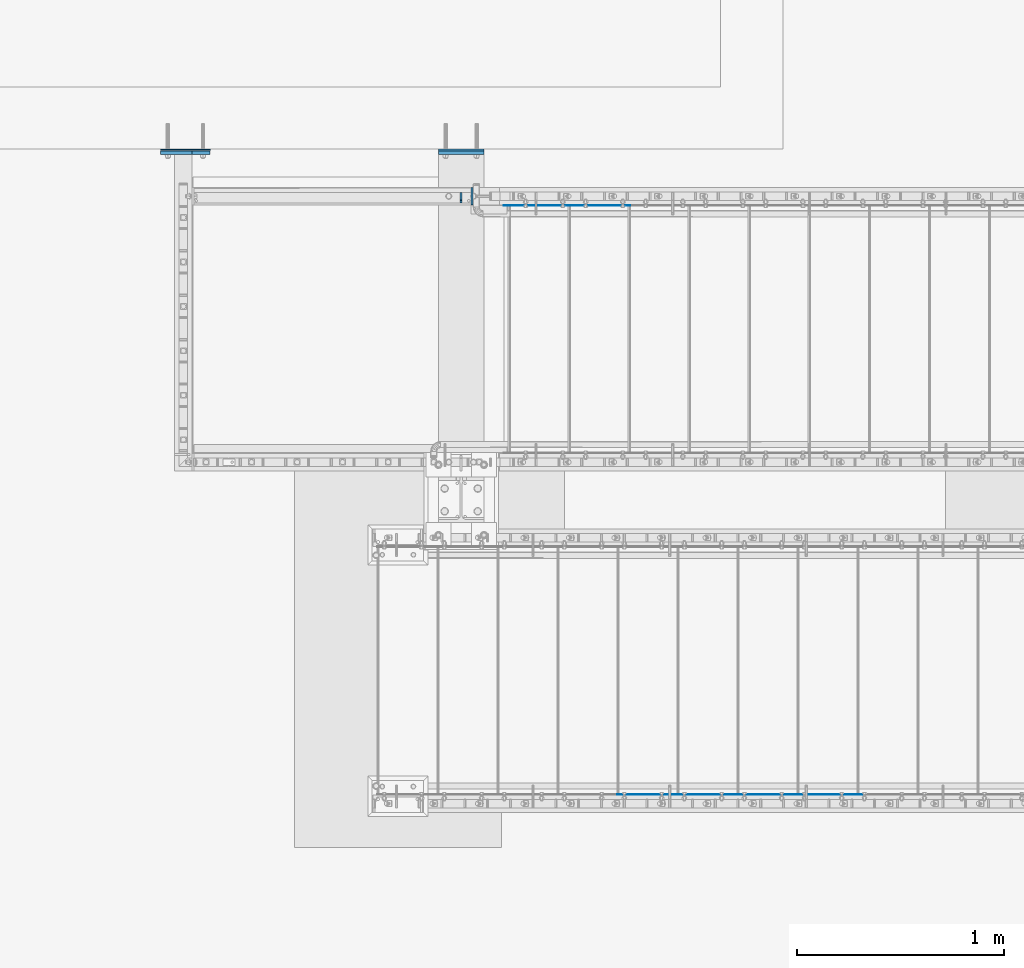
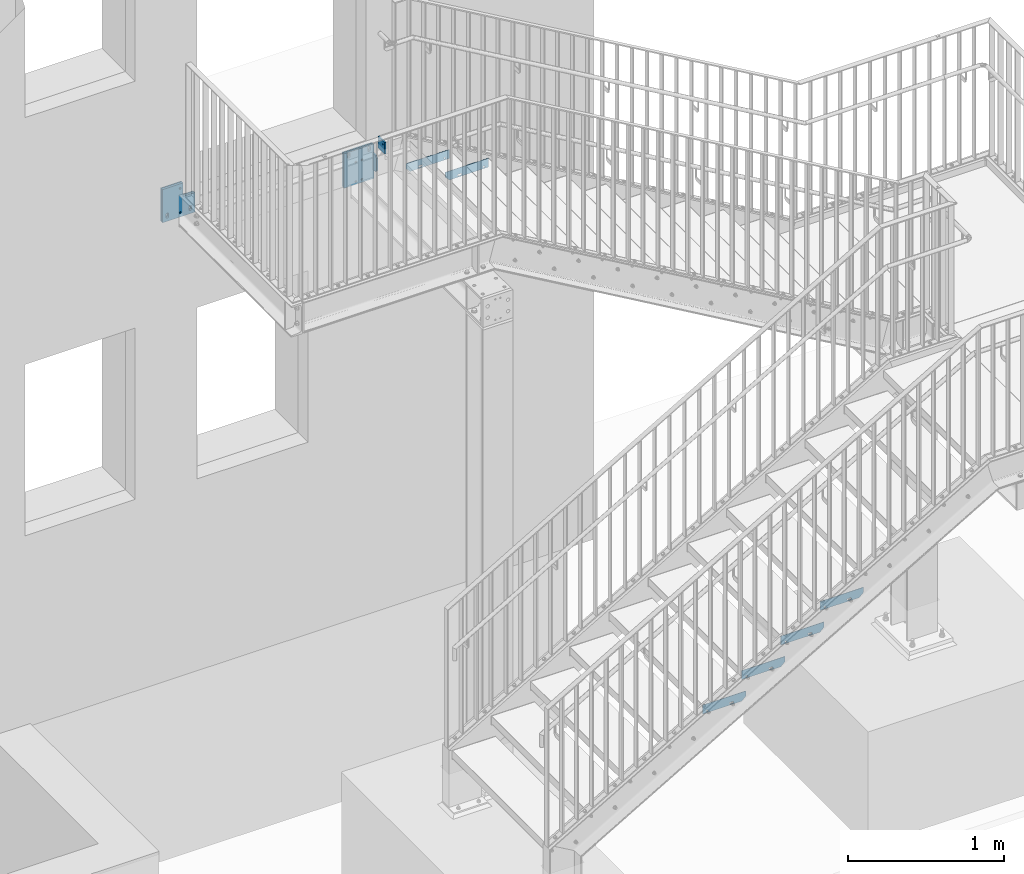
# One storey, part 21 of 145: 12 plates, 38 openings.
"""IFC2X3 building model written with IfcOpenShell, lengths in millimetres."""

from ifc_helpers import new_model, entity, si_unit, converted_unit, point, frame, frame_2d, origin, origin_with_axes, origin_2d_with_axis, place, context, project, spatial, polyline, circle_curve, line_curve, trimmed, segment, composite_curve, circle, outline, extrude, material, layer, layer_set, element, save


model = new_model("IFC2X3")

# Units and contexts
model_context = context("Model", 3, precision=1e-09, world=origin_with_axes())
ifc_project = project(units=[si_unit("LENGTHUNIT", "METRE", prefix="MILLI"), si_unit("AREAUNIT", "SQUARE_METRE"), si_unit("VOLUMEUNIT", "CUBIC_METRE"), converted_unit("PLANEANGLEUNIT", "DEGREE", entity("IfcPlaneAngleMeasure", 0.01745329), si_unit("PLANEANGLEUNIT", "RADIAN"), dimensions=[0, 0, 0, 0, 0, 0, 0])], contexts=[model_context])

# Site, building, storey
site_placement = place(None, origin_with_axes())
site = spatial("IfcSite", under=ifc_project, at=site_placement, Name="BZ1 Grund- und Mittelschule 85716 Unterschlei?heim", CompositionType="ELEMENT")
building_placement = place(site_placement, origin_with_axes())
building = spatial("IfcBuilding", under=site, at=building_placement, Name="Struktur 1", CompositionType="ELEMENT")
storey_placement = place(building_placement, origin_with_axes())
storey = spatial("IfcBuildingStorey", under=building, at=storey_placement, Name="Default Storey", CompositionType="ELEMENT", Elevation=0.0)

# Plate, openings
ifc_material_1 = material(Name="Thermostop")
ifc_layer_1 = layer(ifc_material_1, 10.0)
ifc_layer_set_1 = layer_set([ifc_layer_1], Name="Thermostop")
plate_1_placement = place(None, frame((17070.84472732, 0.0, 2985.0), z_axis=(0.0, -1.0, 0.0), x_axis=(1.0, 0.0, 0.0)))
plate_1 = element("IfcPlate", 1, at=plate_1_placement, inside=storey, material=ifc_layer_set_1, Name="-", ObjectType="-", context=model_context, shape_type="SweptSolid", body=[
    extrude(outline(polyline([(-110.0, -135.0), (110.0, -135.0), (110.0, 135.0), (-110.0, 135.0), (-110.0, -135.0)])), origin_with_axes(), (0.0, 0.0, 1.0), 10.0),
])
opening_1_placement = place(plate_1_placement, frame((0.0, 109.9990004, -0.5), z_axis=(0.0, 0.0, 1.0), x_axis=(1.0, 0.0, 0.0)))
element("IfcOpeningElement", 2, at=opening_1_placement, cuts=plate_1, ObjectType="Opening", context=model_context, shape_type="SweptSolid", body=[
    extrude(outline(composite_curve([segment(trimmed(line_curve((84.001, -11.0), (0.0, 1.0), 22.0), [point((84.001, -11.0))], [point((84.001, 11.0))], True, "CARTESIAN"), True, "CONTINUOUS"), segment(trimmed(circle_curve(frame_2d((75.0, 11.0), x_axis=(1.0, 0.0)), 9.001), [point((84.001, 11.0))], [point((65.999, 11.0))], True, "CARTESIAN"), True, "CONTINUOUS"), segment(trimmed(line_curve((65.999, 11.0), (0.0, -1.0), 22.0), [point((65.999, 11.0))], [point((65.999, -11.0))], True, "CARTESIAN"), True, "CONTINUOUS"), segment(trimmed(circle_curve(frame_2d((75.0, -11.0), x_axis=(1.0, 0.0)), 9.001), [point((65.999, -11.0))], [point((84.001, -11.0))], True, "CARTESIAN"), True, "CONTINUOUS")], self_intersect=False)), origin(), (0.0, 0.0, 1.0), 11.0),
])
opening_2_placement = place(plate_1_placement, frame((0.0, 109.9990004, -0.5), z_axis=(0.0, 0.0, 1.0), x_axis=(1.0, 0.0, 0.0)))
element("IfcOpeningElement", 3, at=opening_2_placement, cuts=plate_1, ObjectType="Opening", context=model_context, shape_type="SweptSolid", body=[
    extrude(outline(composite_curve([segment(trimmed(line_curve((-65.999, -11.0), (0.0, 1.0), 22.0), [point((-65.999, -11.0))], [point((-65.999, 11.0))], True, "CARTESIAN"), True, "CONTINUOUS"), segment(trimmed(circle_curve(frame_2d((-75.0, 11.0), x_axis=(1.0, 0.0)), 9.001), [point((-65.999, 11.0))], [point((-84.001, 11.0))], True, "CARTESIAN"), True, "CONTINUOUS"), segment(trimmed(line_curve((-84.001, 11.0), (0.0, -1.0), 22.0), [point((-84.001, 11.0))], [point((-84.001, -11.0))], True, "CARTESIAN"), True, "CONTINUOUS"), segment(trimmed(circle_curve(frame_2d((-75.0, -11.0), x_axis=(1.0, 0.0)), 9.001), [point((-84.001, -11.0))], [point((-65.999, -11.0))], True, "CARTESIAN"), True, "CONTINUOUS")], self_intersect=False)), origin(), (0.0, 0.0, 1.0), 11.0),
])

ifc_layer_2 = layer(ifc_material_1, 6.0)
ifc_layer_set_2 = layer_set([ifc_layer_2], Name="Thermostop")
plate_2_placement = place(None, frame((15738.34372732, 0.0, 3180.0000004), z_axis=(0.0, -1.0, 0.0), x_axis=(1.0, 0.0, 0.0)))
plate_2 = element("IfcPlate", 4, at=plate_2_placement, inside=storey, material=ifc_layer_set_2, Name="-", ObjectType="-", context=model_context, shape_type="SweptSolid", body=[
    extrude(outline(polyline([(-120.0, -130.0), (120.0, -130.0), (120.0, 130.0), (-120.0, 130.0), (-120.0, -130.0)])), origin_with_axes(), (0.0, 0.0, 1.0), 6.0),
])
opening_3_placement = place(plate_2_placement, frame((-10.0, -85.001, -0.5), z_axis=(0.0, 0.0, 1.0), x_axis=(1.0, 0.0, 0.0)))
element("IfcOpeningElement", 5, at=opening_3_placement, cuts=plate_2, ObjectType="Opening", context=model_context, shape_type="SweptSolid", body=[
    extrude(outline(composite_curve([segment(trimmed(line_curve((104.001, -11.0), (0.0, 1.0), 22.0), [point((104.001, -11.0))], [point((104.001, 11.0))], True, "CARTESIAN"), True, "CONTINUOUS"), segment(trimmed(circle_curve(frame_2d((95.0, 11.0), x_axis=(1.0, 0.0)), 9.001), [point((104.001, 11.0))], [point((85.999, 11.0))], True, "CARTESIAN"), True, "CONTINUOUS"), segment(trimmed(line_curve((85.999, 11.0), (0.0, -1.0), 22.0), [point((85.999, 11.0))], [point((85.999, -11.0))], True, "CARTESIAN"), True, "CONTINUOUS"), segment(trimmed(circle_curve(frame_2d((95.0, -11.0), x_axis=(1.0, 0.0)), 9.001), [point((85.999, -11.0))], [point((104.001, -11.0))], True, "CARTESIAN"), True, "CONTINUOUS")], self_intersect=False)), origin(), (0.0, 0.0, 1.0), 7.0),
])
opening_4_placement = place(plate_2_placement, frame((-10.0, -85.001, -0.5), z_axis=(0.0, 0.0, 1.0), x_axis=(1.0, 0.0, 0.0)))
element("IfcOpeningElement", 6, at=opening_4_placement, cuts=plate_2, ObjectType="Opening", context=model_context, shape_type="SweptSolid", body=[
    extrude(outline(composite_curve([segment(trimmed(line_curve((-65.999, -11.0), (0.0, 1.0), 22.0), [point((-65.999, -11.0))], [point((-65.999, 11.0))], True, "CARTESIAN"), True, "CONTINUOUS"), segment(trimmed(circle_curve(frame_2d((-75.0, 11.0), x_axis=(1.0, 0.0)), 9.001), [point((-65.999, 11.0))], [point((-84.001, 11.0))], True, "CARTESIAN"), True, "CONTINUOUS"), segment(trimmed(line_curve((-84.001, 11.0), (0.0, -1.0), 22.0), [point((-84.001, 11.0))], [point((-84.001, -11.0))], True, "CARTESIAN"), True, "CONTINUOUS"), segment(trimmed(circle_curve(frame_2d((-75.0, -11.0), x_axis=(1.0, 0.0)), 9.001), [point((-84.001, -11.0))], [point((-65.999, -11.0))], True, "CARTESIAN"), True, "CONTINUOUS")], self_intersect=False)), origin(), (0.0, 0.0, 1.0), 7.0),
])
opening_5_placement = place(plate_2_placement, frame((0.0, 0.0, -0.1), z_axis=(0.0, 0.0, 1.0), x_axis=(1.0, 0.0, 0.0)))
element("IfcOpeningElement", 7, at=opening_5_placement, cuts=plate_2, ObjectType="Opening", context=model_context, shape_type="SweptSolid", body=[
    extrude(outline(polyline([(32.499, 23.999), (154.4591057, 23.999), (154.4591057, 165.61100087), (32.499, 165.61100087), (32.499, 23.999)])), origin(), (0.0, 0.0, 1.0), 6.2),
])

ifc_material_2 = material(Name="S235JR")
ifc_layer_3 = layer(ifc_material_2, 15.0)
ifc_layer_set_3 = layer_set([ifc_layer_3], Name="S235JR")
plate_3_placement = place(None, frame((15738.34372732, -10.0, 3180.0000004), z_axis=(0.0, -1.0, 0.0), x_axis=(1.0, 0.0, 0.0)))
plate_3 = element("IfcPlate", 8, at=plate_3_placement, inside=storey, material=ifc_layer_set_3, Name="-", ObjectType="-", context=model_context, shape_type="SweptSolid", body=[
    extrude(outline(polyline([(-120.0, -130.0), (120.0, -130.0), (120.0, 130.0), (-120.0, 130.0), (-120.0, -130.0)])), origin_with_axes(), (0.0, 0.0, 1.0), 15.0),
])
opening_6_placement = place(plate_3_placement, frame((10.0, 94.0, -0.5), z_axis=(0.0, 0.0, 1.0), x_axis=(0.0, 1.0, 0.0)))
element("IfcOpeningElement", 9, at=opening_6_placement, cuts=plate_3, ObjectType="Opening", context=model_context, shape_type="SweptSolid", body=[
    extrude(circle(Radius=7.001, at=origin_2d_with_axis()), origin(), (0.0, 0.0, 1.0), 16.0),
])
opening_7_placement = place(plate_3_placement, frame((10.0, -94.0, -0.5), z_axis=(0.0, 0.0, 1.0), x_axis=(0.0, 1.0, 0.0)))
element("IfcOpeningElement", 10, at=opening_7_placement, cuts=plate_3, ObjectType="Opening", context=model_context, shape_type="SweptSolid", body=[
    extrude(circle(Radius=7.001, at=origin_2d_with_axis()), origin(), (0.0, 0.0, 1.0), 16.0),
])
opening_8_placement = place(plate_3_placement, frame((0.0, 0.0, -0.1), z_axis=(0.0, 0.0, 1.0), x_axis=(1.0, 0.0, 0.0)))
element("IfcOpeningElement", 11, at=opening_8_placement, cuts=plate_3, ObjectType="Opening", context=model_context, shape_type="SweptSolid", body=[
    extrude(outline(polyline([(32.499, 23.998), (154.4591057, 23.998), (154.4591057, 165.61100087), (32.499, 165.61100087), (32.499, 23.998)])), origin(), (0.0, 0.0, 1.0), 15.2),
])
opening_9_placement = place(plate_3_placement, frame((0.0, -85.001, -0.5), z_axis=(0.0, 0.0, 1.0), x_axis=(1.0, 0.0, 0.0)))
element("IfcOpeningElement", 12, at=opening_9_placement, cuts=plate_3, ObjectType="Opening", context=model_context, shape_type="SweptSolid", body=[
    extrude(outline(composite_curve([segment(trimmed(line_curve((94.001, -11.0), (0.0, 1.0), 22.0), [point((94.001, -11.0))], [point((94.001, 11.0))], True, "CARTESIAN"), True, "CONTINUOUS"), segment(trimmed(circle_curve(frame_2d((85.0, 11.0), x_axis=(1.0, 0.0)), 9.001), [point((94.001, 11.0))], [point((75.999, 11.0))], True, "CARTESIAN"), True, "CONTINUOUS"), segment(trimmed(line_curve((75.999, 11.0), (0.0, -1.0), 22.0), [point((75.999, 11.0))], [point((75.999, -11.0))], True, "CARTESIAN"), True, "CONTINUOUS"), segment(trimmed(circle_curve(frame_2d((85.0, -11.0), x_axis=(1.0, 0.0)), 9.001), [point((75.999, -11.0))], [point((94.001, -11.0))], True, "CARTESIAN"), True, "CONTINUOUS")], self_intersect=False)), origin(), (0.0, 0.0, 1.0), 16.0),
])
opening_10_placement = place(plate_3_placement, frame((0.0, -85.001, -0.5), z_axis=(0.0, 0.0, 1.0), x_axis=(1.0, 0.0, 0.0)))
element("IfcOpeningElement", 13, at=opening_10_placement, cuts=plate_3, ObjectType="Opening", context=model_context, shape_type="SweptSolid", body=[
    extrude(outline(composite_curve([segment(trimmed(line_curve((-75.999, -11.0), (0.0, 1.0), 22.0), [point((-75.999, -11.0))], [point((-75.999, 11.0))], True, "CARTESIAN"), True, "CONTINUOUS"), segment(trimmed(circle_curve(frame_2d((-85.0, 11.0), x_axis=(1.0, 0.0)), 9.001), [point((-75.999, 11.0))], [point((-94.001, 11.0))], True, "CARTESIAN"), True, "CONTINUOUS"), segment(trimmed(line_curve((-94.001, 11.0), (0.0, -1.0), 22.0), [point((-94.001, 11.0))], [point((-94.001, -11.0))], True, "CARTESIAN"), True, "CONTINUOUS"), segment(trimmed(circle_curve(frame_2d((-85.0, -11.0), x_axis=(1.0, 0.0)), 9.001), [point((-94.001, -11.0))], [point((-75.999, -11.0))], True, "CARTESIAN"), True, "CONTINUOUS")], self_intersect=False)), origin(), (0.0, 0.0, 1.0), 16.0),
])

ifc_layer_4 = layer(ifc_material_2, 10.0)
ifc_layer_set_4 = layer_set([ifc_layer_4], Name="S235JR")
plate_4_placement = place(None, frame((17075.84472732, -185.502, 3071.144734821), z_axis=(-1.0, 0.0, 0.0), x_axis=(0.0, -0.996815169, 0.079746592)))
plate_4 = element("IfcPlate", 14, at=plate_4_placement, inside=storey, material=ifc_layer_set_4, Name="Stiffener#1", ObjectType="Stiffener#1", context=model_context, shape_type="SweptSolid", body=[
    extrude(outline(polyline([(25.079875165, 0.0), (75.239625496, 0.0), (91.644322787, 205.05517107), (42.122556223, 213.029830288), (25.079875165, 0.0)])), origin_with_axes(), (0.0, 0.0, 1.0), 10.0),
])
opening_11_placement = place(plate_4_placement, frame((0.0, 0.0, -0.01), z_axis=(0.0, 0.0, 1.0), x_axis=(1.0, 0.0, 0.0)))
element("IfcOpeningElement", 15, at=opening_11_placement, cuts=plate_4, ObjectType="Opening", context=model_context, shape_type="SweptSolid", body=[
    extrude(outline(composite_curve([segment(trimmed(line_curve((75.239625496, 0.0), (0.079746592, 0.996815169), 15.0), [point((75.239625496, 0.0))], [point((76.435824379, 14.952227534))], True, "CARTESIAN"), True, "CONTINUOUS"), segment(trimmed(circle_curve(frame_2d((75.239625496, 0.0), x_axis=(1.0, 0.0)), 15.0), [point((76.435824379, 14.952227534))], [point((60.239625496, 0.0))], True, "CARTESIAN"), True, "CONTINUOUS"), segment(trimmed(line_curve((60.239625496, 0.0), (1.0, 0.0), 15.0), [point((60.239625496, 0.0))], [point((75.239625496, 0.0))], True, "CARTESIAN"), True, "CONTINUOUS")], self_intersect=False)), origin(), (0.0, 0.0, 1.0), 10.02),
])
opening_12_placement = place(plate_4_placement, frame((0.0, 0.0, -0.1), z_axis=(0.0, 0.0, 1.0), x_axis=(0.996815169, -0.079746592, 0.0)))
element("IfcOpeningElement", 16, at=opening_12_placement, cuts=plate_4, ObjectType="Opening", context=model_context, shape_type="SweptSolid", body=[
    extrude(outline(polyline([(-31.888544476, 132.003265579), (260.922425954, 132.003265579), (260.922425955, 274.306542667), (-31.888544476, 274.306542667), (-31.888544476, 132.003265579)])), origin(), (0.0, 0.0, 1.0), 10.2),
])
opening_13_placement = place(plate_4_placement, frame((0.0, 0.0, -0.1), z_axis=(0.0, 0.0, 1.0), x_axis=(0.996815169, -0.079746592, 0.0)))
element("IfcOpeningElement", 17, at=opening_13_placement, cuts=plate_4, ObjectType="Opening", context=model_context, shape_type="SweptSolid", body=[
    extrude(outline(circle_curve(frame_2d((75.0, 132.003265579), x_axis=(1.0, 0.0)), 15.001)), origin(), (0.0, 0.0, 1.0), 10.2),
])

ifc_layer_5 = layer(ifc_material_2, 3.0)
ifc_layer_set_5 = layer_set([ifc_layer_5], Name="S235JR")
plate_5_placement = place(None, frame((17984.545399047, -3117.002, 348.181818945), z_axis=(0.0, -1.0, 0.0), x_axis=(0.0, 0.0, -1.0)))
plate_5 = element("IfcPlate", 18, at=plate_5_placement, inside=storey, material=ifc_layer_set_5, Name="-", ObjectType="-", context=model_context, shape_type="SweptSolid", body=[
    extrude(outline(polyline([(-35.0, -160.0), (35.0, -160.0), (35.0, 160.0), (-35.0, 160.0), (-35.0, -160.0)])), origin_with_axes(), (0.0, 0.0, 1.0), 3.0),
])
opening_14_placement = place(plate_5_placement, frame((0.0, 7.5, -0.001), z_axis=(0.0, 0.0, 1.0), x_axis=(1.0, 0.0, 0.0)))
element("IfcOpeningElement", 19, at=opening_14_placement, cuts=plate_5, ObjectType="Opening", context=model_context, shape_type="SweptSolid", body=[
    extrude(outline(polyline([(5.0, 152.5), (35.0, 122.5), (35.0, 152.5), (5.0, 152.5)])), origin(), (0.0, 0.0, 1.0), 3.002),
])
opening_15_placement = place(plate_5_placement, frame((20.0, 55.0, 3.5), z_axis=(0.0, 0.0, -1.0), x_axis=(-1.0, 0.0, 0.0)))
element("IfcOpeningElement", 20, at=opening_15_placement, cuts=plate_5, ObjectType="Opening", context=model_context, shape_type="SweptSolid", body=[
    extrude(outline(composite_curve([segment(trimmed(line_curve((6.501, -9.5), (0.0, 1.0), 19.0), [point((6.501, -9.5))], [point((6.501, 9.5))], True, "CARTESIAN"), True, "CONTINUOUS"), segment(trimmed(circle_curve(frame_2d((0.0, 9.5), x_axis=(1.0, 0.0)), 6.501), [point((6.501, 9.5))], [point((-6.501, 9.5))], True, "CARTESIAN"), True, "CONTINUOUS"), segment(trimmed(line_curve((-6.501, 9.5), (0.0, -1.0), 19.0), [point((-6.501, 9.5))], [point((-6.501, -9.5))], True, "CARTESIAN"), True, "CONTINUOUS"), segment(trimmed(circle_curve(frame_2d((0.0, -9.5), x_axis=(1.0, 0.0)), 6.501), [point((-6.501, -9.5))], [point((6.501, -9.5))], True, "CARTESIAN"), True, "CONTINUOUS")], self_intersect=False)), origin(), (0.0, 0.0, 1.0), 4.0),
])
opening_16_placement = place(plate_5_placement, frame((20.0, -125.0, 3.5), z_axis=(0.0, 0.0, -1.0), x_axis=(-1.0, 0.0, 0.0)))
element("IfcOpeningElement", 21, at=opening_16_placement, cuts=plate_5, ObjectType="Opening", context=model_context, shape_type="SweptSolid", body=[
    extrude(circle(Radius=6.501, at=origin_2d_with_axis()), origin(), (0.0, 0.0, 1.0), 4.0),
])

plate_6_placement = place(None, frame((18274.545399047, -3117.002, 516.818182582), z_axis=(0.0, -1.0, 0.0), x_axis=(0.0, 0.0, -1.0)))
plate_6 = element("IfcPlate", 22, at=plate_6_placement, inside=storey, material=ifc_layer_set_5, Name="-", ObjectType="-", context=model_context, shape_type="SweptSolid", body=[
    extrude(outline(polyline([(-35.0, -160.0), (35.0, -160.0), (35.0, 160.0), (-35.0, 160.0), (-35.0, -160.0)])), origin_with_axes(), (0.0, 0.0, 1.0), 3.0),
])
opening_17_placement = place(plate_6_placement, frame((0.0, 7.5, -0.001), z_axis=(0.0, 0.0, 1.0), x_axis=(1.0, 0.0, 0.0)))
element("IfcOpeningElement", 23, at=opening_17_placement, cuts=plate_6, ObjectType="Opening", context=model_context, shape_type="SweptSolid", body=[
    extrude(outline(polyline([(5.0, 152.5), (35.0, 122.5), (35.0, 152.5), (5.0, 152.5)])), origin(), (0.0, 0.0, 1.0), 3.002),
])
opening_18_placement = place(plate_6_placement, frame((20.0, 55.0, 3.5), z_axis=(0.0, 0.0, -1.0), x_axis=(-1.0, 0.0, 0.0)))
element("IfcOpeningElement", 24, at=opening_18_placement, cuts=plate_6, ObjectType="Opening", context=model_context, shape_type="SweptSolid", body=[
    extrude(outline(composite_curve([segment(trimmed(line_curve((6.501, -9.5), (0.0, 1.0), 19.0), [point((6.501, -9.5))], [point((6.501, 9.5))], True, "CARTESIAN"), True, "CONTINUOUS"), segment(trimmed(circle_curve(frame_2d((0.0, 9.5), x_axis=(1.0, 0.0)), 6.501), [point((6.501, 9.5))], [point((-6.501, 9.5))], True, "CARTESIAN"), True, "CONTINUOUS"), segment(trimmed(line_curve((-6.501, 9.5), (0.0, -1.0), 19.0), [point((-6.501, 9.5))], [point((-6.501, -9.5))], True, "CARTESIAN"), True, "CONTINUOUS"), segment(trimmed(circle_curve(frame_2d((0.0, -9.5), x_axis=(1.0, 0.0)), 6.501), [point((-6.501, -9.5))], [point((6.501, -9.5))], True, "CARTESIAN"), True, "CONTINUOUS")], self_intersect=False)), origin(), (0.0, 0.0, 1.0), 4.0),
])
opening_19_placement = place(plate_6_placement, frame((20.0, -125.0, 3.5), z_axis=(0.0, 0.0, -1.0), x_axis=(-1.0, 0.0, 0.0)))
element("IfcOpeningElement", 25, at=opening_19_placement, cuts=plate_6, ObjectType="Opening", context=model_context, shape_type="SweptSolid", body=[
    extrude(circle(Radius=6.501, at=origin_2d_with_axis()), origin(), (0.0, 0.0, 1.0), 4.0),
])

plate_7_placement = place(None, frame((18564.545399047, -3117.002, 685.454546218), z_axis=(0.0, -1.0, 0.0), x_axis=(0.0, 0.0, -1.0)))
plate_7 = element("IfcPlate", 26, at=plate_7_placement, inside=storey, material=ifc_layer_set_5, Name="-", ObjectType="-", context=model_context, shape_type="SweptSolid", body=[
    extrude(outline(polyline([(-35.0, -160.0), (35.0, -160.0), (35.0, 160.0), (-35.0, 160.0), (-35.0, -160.0)])), origin_with_axes(), (0.0, 0.0, 1.0), 3.0),
])
opening_20_placement = place(plate_7_placement, frame((0.0, 7.5, -0.001), z_axis=(0.0, 0.0, 1.0), x_axis=(1.0, 0.0, 0.0)))
element("IfcOpeningElement", 27, at=opening_20_placement, cuts=plate_7, ObjectType="Opening", context=model_context, shape_type="SweptSolid", body=[
    extrude(outline(polyline([(5.0, 152.5), (35.0, 122.5), (35.0, 152.5), (5.0, 152.5)])), origin(), (0.0, 0.0, 1.0), 3.002),
])
opening_21_placement = place(plate_7_placement, frame((20.0, 55.0, 3.5), z_axis=(0.0, 0.0, -1.0), x_axis=(-1.0, 0.0, 0.0)))
element("IfcOpeningElement", 28, at=opening_21_placement, cuts=plate_7, ObjectType="Opening", context=model_context, shape_type="SweptSolid", body=[
    extrude(outline(composite_curve([segment(trimmed(line_curve((6.501, -9.5), (0.0, 1.0), 19.0), [point((6.501, -9.5))], [point((6.501, 9.5))], True, "CARTESIAN"), True, "CONTINUOUS"), segment(trimmed(circle_curve(frame_2d((0.0, 9.5), x_axis=(1.0, 0.0)), 6.501), [point((6.501, 9.5))], [point((-6.501, 9.5))], True, "CARTESIAN"), True, "CONTINUOUS"), segment(trimmed(line_curve((-6.501, 9.5), (0.0, -1.0), 19.0), [point((-6.501, 9.5))], [point((-6.501, -9.5))], True, "CARTESIAN"), True, "CONTINUOUS"), segment(trimmed(circle_curve(frame_2d((0.0, -9.5), x_axis=(1.0, 0.0)), 6.501), [point((-6.501, -9.5))], [point((6.501, -9.5))], True, "CARTESIAN"), True, "CONTINUOUS")], self_intersect=False)), origin(), (0.0, 0.0, 1.0), 4.0),
])
opening_22_placement = place(plate_7_placement, frame((20.0, -125.0, 3.5), z_axis=(0.0, 0.0, -1.0), x_axis=(-1.0, 0.0, 0.0)))
element("IfcOpeningElement", 29, at=opening_22_placement, cuts=plate_7, ObjectType="Opening", context=model_context, shape_type="SweptSolid", body=[
    extrude(circle(Radius=6.501, at=origin_2d_with_axis()), origin(), (0.0, 0.0, 1.0), 4.0),
])

plate_8_placement = place(None, frame((18854.545399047, -3117.002, 854.090909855), z_axis=(0.0, -1.0, 0.0), x_axis=(0.0, 0.0, -1.0)))
plate_8 = element("IfcPlate", 30, at=plate_8_placement, inside=storey, material=ifc_layer_set_5, Name="-", ObjectType="-", context=model_context, shape_type="SweptSolid", body=[
    extrude(outline(polyline([(-35.0, -160.0), (35.0, -160.0), (35.0, 160.0), (-35.0, 160.0), (-35.0, -160.0)])), origin_with_axes(), (0.0, 0.0, 1.0), 3.0),
])
opening_23_placement = place(plate_8_placement, frame((0.0, 7.5, -0.001), z_axis=(0.0, 0.0, 1.0), x_axis=(1.0, 0.0, 0.0)))
element("IfcOpeningElement", 31, at=opening_23_placement, cuts=plate_8, ObjectType="Opening", context=model_context, shape_type="SweptSolid", body=[
    extrude(outline(polyline([(5.0, 152.5), (35.0, 122.5), (35.0, 152.5), (5.0, 152.5)])), origin(), (0.0, 0.0, 1.0), 3.002),
])
opening_24_placement = place(plate_8_placement, frame((20.0, 55.0, 3.5), z_axis=(0.0, 0.0, -1.0), x_axis=(-1.0, 0.0, 0.0)))
element("IfcOpeningElement", 32, at=opening_24_placement, cuts=plate_8, ObjectType="Opening", context=model_context, shape_type="SweptSolid", body=[
    extrude(outline(composite_curve([segment(trimmed(line_curve((6.501, -9.5), (0.0, 1.0), 19.0), [point((6.501, -9.5))], [point((6.501, 9.5))], True, "CARTESIAN"), True, "CONTINUOUS"), segment(trimmed(circle_curve(frame_2d((0.0, 9.5), x_axis=(1.0, 0.0)), 6.501), [point((6.501, 9.5))], [point((-6.501, 9.5))], True, "CARTESIAN"), True, "CONTINUOUS"), segment(trimmed(line_curve((-6.501, 9.5), (0.0, -1.0), 19.0), [point((-6.501, 9.5))], [point((-6.501, -9.5))], True, "CARTESIAN"), True, "CONTINUOUS"), segment(trimmed(circle_curve(frame_2d((0.0, -9.5), x_axis=(1.0, 0.0)), 6.501), [point((-6.501, -9.5))], [point((6.501, -9.5))], True, "CARTESIAN"), True, "CONTINUOUS")], self_intersect=False)), origin(), (0.0, 0.0, 1.0), 4.0),
])
opening_25_placement = place(plate_8_placement, frame((20.0, -125.0, 3.5), z_axis=(0.0, 0.0, -1.0), x_axis=(-1.0, 0.0, 0.0)))
element("IfcOpeningElement", 33, at=opening_25_placement, cuts=plate_8, ObjectType="Opening", context=model_context, shape_type="SweptSolid", body=[
    extrude(circle(Radius=6.501, at=origin_2d_with_axis()), origin(), (0.0, 0.0, 1.0), 4.0),
])

plate_9_placement = place(None, frame((17727.1419848, -273.002, 2877.727273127), z_axis=(0.0, 1.0, 0.0), x_axis=(0.0, 0.0, -1.0)))
plate_9 = element("IfcPlate", 34, at=plate_9_placement, inside=storey, material=ifc_layer_set_5, Name="-", ObjectType="-", context=model_context, shape_type="SweptSolid", body=[
    extrude(outline(polyline([(-35.0, -160.0), (35.0, -160.0), (35.0, 160.0), (-35.0, 160.0), (-35.0, -160.0)])), origin_with_axes(), (0.0, 0.0, 1.0), 3.0),
])
opening_26_placement = place(plate_9_placement, frame((0.0, 7.5, -0.001), z_axis=(0.0, 0.0, 1.0), x_axis=(1.0, 0.0, 0.0)))
element("IfcOpeningElement", 35, at=opening_26_placement, cuts=plate_9, ObjectType="Opening", context=model_context, shape_type="SweptSolid", body=[
    extrude(outline(polyline([(5.0, 152.5), (35.0, 122.5), (35.0, 152.5), (5.0, 152.5)])), origin(), (0.0, 0.0, 1.0), 3.002),
])
opening_27_placement = place(plate_9_placement, frame((20.0, 55.0, 3.5), z_axis=(0.0, 0.0, -1.0), x_axis=(-1.0, 0.0, 0.0)))
element("IfcOpeningElement", 36, at=opening_27_placement, cuts=plate_9, ObjectType="Opening", context=model_context, shape_type="SweptSolid", body=[
    extrude(outline(composite_curve([segment(trimmed(line_curve((6.501, -9.5), (0.0, 1.0), 19.0), [point((6.501, -9.5))], [point((6.501, 9.5))], True, "CARTESIAN"), True, "CONTINUOUS"), segment(trimmed(circle_curve(frame_2d((0.0, 9.5), x_axis=(1.0, 0.0)), 6.501), [point((6.501, 9.5))], [point((-6.501, 9.5))], True, "CARTESIAN"), True, "CONTINUOUS"), segment(trimmed(line_curve((-6.501, 9.5), (0.0, -1.0), 19.0), [point((-6.501, 9.5))], [point((-6.501, -9.5))], True, "CARTESIAN"), True, "CONTINUOUS"), segment(trimmed(circle_curve(frame_2d((0.0, -9.5), x_axis=(1.0, 0.0)), 6.501), [point((-6.501, -9.5))], [point((6.501, -9.5))], True, "CARTESIAN"), True, "CONTINUOUS")], self_intersect=False)), origin(), (0.0, 0.0, 1.0), 4.0),
])
opening_28_placement = place(plate_9_placement, frame((20.0, -125.0, 3.5), z_axis=(0.0, 0.0, -1.0), x_axis=(-1.0, 0.0, 0.0)))
element("IfcOpeningElement", 37, at=opening_28_placement, cuts=plate_9, ObjectType="Opening", context=model_context, shape_type="SweptSolid", body=[
    extrude(circle(Radius=6.501, at=origin_2d_with_axis()), origin(), (0.0, 0.0, 1.0), 4.0),
])

plate_10_placement = place(None, frame((17437.1419848, -273.002, 3046.363636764), z_axis=(0.0, 1.0, 0.0), x_axis=(0.0, 0.0, -1.0)))
plate_10 = element("IfcPlate", 38, at=plate_10_placement, inside=storey, material=ifc_layer_set_5, Name="-", ObjectType="-", context=model_context, shape_type="SweptSolid", body=[
    extrude(outline(polyline([(-35.0, -160.0), (35.0, -160.0), (35.0, 160.0), (-35.0, 160.0), (-35.0, -160.0)])), origin_with_axes(), (0.0, 0.0, 1.0), 3.0),
])
opening_29_placement = place(plate_10_placement, frame((0.0, 7.5, -0.001), z_axis=(0.0, 0.0, 1.0), x_axis=(1.0, 0.0, 0.0)))
element("IfcOpeningElement", 39, at=opening_29_placement, cuts=plate_10, ObjectType="Opening", context=model_context, shape_type="SweptSolid", body=[
    extrude(outline(polyline([(5.0, 152.5), (35.0, 122.5), (35.0, 152.5), (5.0, 152.5)])), origin(), (0.0, 0.0, 1.0), 3.002),
])
opening_30_placement = place(plate_10_placement, frame((20.0, 55.0, 3.5), z_axis=(0.0, 0.0, -1.0), x_axis=(-1.0, 0.0, 0.0)))
element("IfcOpeningElement", 40, at=opening_30_placement, cuts=plate_10, ObjectType="Opening", context=model_context, shape_type="SweptSolid", body=[
    extrude(outline(composite_curve([segment(trimmed(line_curve((6.501, -9.5), (0.0, 1.0), 19.0), [point((6.501, -9.5))], [point((6.501, 9.5))], True, "CARTESIAN"), True, "CONTINUOUS"), segment(trimmed(circle_curve(frame_2d((0.0, 9.5), x_axis=(1.0, 0.0)), 6.501), [point((6.501, 9.5))], [point((-6.501, 9.5))], True, "CARTESIAN"), True, "CONTINUOUS"), segment(trimmed(line_curve((-6.501, 9.5), (0.0, -1.0), 19.0), [point((-6.501, 9.5))], [point((-6.501, -9.5))], True, "CARTESIAN"), True, "CONTINUOUS"), segment(trimmed(circle_curve(frame_2d((0.0, -9.5), x_axis=(1.0, 0.0)), 6.501), [point((-6.501, -9.5))], [point((6.501, -9.5))], True, "CARTESIAN"), True, "CONTINUOUS")], self_intersect=False)), origin(), (0.0, 0.0, 1.0), 4.0),
])
opening_31_placement = place(plate_10_placement, frame((20.0, -125.0, 3.5), z_axis=(0.0, 0.0, -1.0), x_axis=(-1.0, 0.0, 0.0)))
element("IfcOpeningElement", 41, at=opening_31_placement, cuts=plate_10, ObjectType="Opening", context=model_context, shape_type="SweptSolid", body=[
    extrude(circle(Radius=6.501, at=origin_2d_with_axis()), origin(), (0.0, 0.0, 1.0), 4.0),
])

# Plate, opening
plate_11_placement = place(None, frame((17118.84572732, -227.502, 3254.9995004), z_axis=(1.0, 0.0, 0.0), x_axis=(0.0, 1.0, 0.0)))
plate_11 = element("IfcPlate", 42, at=plate_11_placement, inside=storey, material=ifc_layer_set_4, Name="-", ObjectType="-", context=model_context, shape_type="SweptSolid", body=[
    extrude(outline(polyline([(-42.5, -45.0005), (42.5, -45.0005), (42.5, 45.0005), (-42.5, 45.0005), (-42.5, -45.0005)])), origin_with_axes(), (0.0, 0.0, 1.0), 10.0),
])
opening_32_placement = place(plate_11_placement, frame((-20.0, 19.0005, 10.5), z_axis=(0.0, 0.0, -1.0), x_axis=(0.0, 1.0, 0.0)))
element("IfcOpeningElement", 43, at=opening_32_placement, cuts=plate_11, ObjectType="Opening", context=model_context, shape_type="SweptSolid", body=[
    extrude(circle(Radius=6.001, at=origin_2d_with_axis()), origin(), (0.0, 0.0, 1.0), 11.0),
])

# Plate, openings
plate_12_placement = place(None, frame((17070.84472732, -10.0, 2985.0), z_axis=(0.0, -1.0, 0.0), x_axis=(1.0, 0.0, 0.0)))
plate_12 = element("IfcPlate", 44, at=plate_12_placement, inside=storey, material=ifc_layer_set_3, Name="-", ObjectType="-", context=model_context, shape_type="SweptSolid", body=[
    extrude(outline(polyline([(-110.0, -135.0), (110.0, -135.0), (110.0, 135.0), (-110.0, 135.0), (-110.0, -135.0)])), origin_with_axes(), (0.0, 0.0, 1.0), 15.0),
])
opening_33_placement = place(plate_12_placement, frame((22.75, 41.0, -0.5), z_axis=(0.0, 0.0, 1.0), x_axis=(0.0, -1.0, 0.0)))
element("IfcOpeningElement", 45, at=opening_33_placement, cuts=plate_12, ObjectType="Opening", context=model_context, shape_type="SweptSolid", body=[
    extrude(circle(Radius=7.001, at=origin_2d_with_axis()), origin(), (0.0, 0.0, 1.0), 16.0),
])
opening_34_placement = place(plate_12_placement, frame((22.75, -111.0, -0.5), z_axis=(0.0, 0.0, 1.0), x_axis=(0.0, -1.0, 0.0)))
element("IfcOpeningElement", 46, at=opening_34_placement, cuts=plate_12, ObjectType="Opening", context=model_context, shape_type="SweptSolid", body=[
    extrude(circle(Radius=7.001, at=origin_2d_with_axis()), origin(), (0.0, 0.0, 1.0), 16.0),
])
opening_35_placement = place(plate_12_placement, frame((-22.75, -111.0, -0.5), z_axis=(0.0, 0.0, 1.0), x_axis=(0.0, -1.0, 0.0)))
element("IfcOpeningElement", 47, at=opening_35_placement, cuts=plate_12, ObjectType="Opening", context=model_context, shape_type="SweptSolid", body=[
    extrude(circle(Radius=7.001, at=origin_2d_with_axis()), origin(), (0.0, 0.0, 1.0), 16.0),
])
opening_36_placement = place(plate_12_placement, frame((-22.75, 41.0, -0.5), z_axis=(0.0, 0.0, 1.0), x_axis=(0.0, -1.0, 0.0)))
element("IfcOpeningElement", 48, at=opening_36_placement, cuts=plate_12, ObjectType="Opening", context=model_context, shape_type="SweptSolid", body=[
    extrude(circle(Radius=7.001, at=origin_2d_with_axis()), origin(), (0.0, 0.0, 1.0), 16.0),
])
opening_37_placement = place(plate_12_placement, frame((0.0, 109.9990004, -0.5), z_axis=(0.0, 0.0, 1.0), x_axis=(1.0, 0.0, 0.0)))
element("IfcOpeningElement", 49, at=opening_37_placement, cuts=plate_12, ObjectType="Opening", context=model_context, shape_type="SweptSolid", body=[
    extrude(outline(composite_curve([segment(trimmed(line_curve((84.001, -11.0), (0.0, 1.0), 22.0), [point((84.001, -11.0))], [point((84.001, 11.0))], True, "CARTESIAN"), True, "CONTINUOUS"), segment(trimmed(circle_curve(frame_2d((75.0, 11.0), x_axis=(1.0, 0.0)), 9.001), [point((84.001, 11.0))], [point((65.999, 11.0))], True, "CARTESIAN"), True, "CONTINUOUS"), segment(trimmed(line_curve((65.999, 11.0), (0.0, -1.0), 22.0), [point((65.999, 11.0))], [point((65.999, -11.0))], True, "CARTESIAN"), True, "CONTINUOUS"), segment(trimmed(circle_curve(frame_2d((75.0, -11.0), x_axis=(1.0, 0.0)), 9.001), [point((65.999, -11.0))], [point((84.001, -11.0))], True, "CARTESIAN"), True, "CONTINUOUS")], self_intersect=False)), origin(), (0.0, 0.0, 1.0), 16.0),
])
opening_38_placement = place(plate_12_placement, frame((0.0, 109.9990004, -0.5), z_axis=(0.0, 0.0, 1.0), x_axis=(1.0, 0.0, 0.0)))
element("IfcOpeningElement", 50, at=opening_38_placement, cuts=plate_12, ObjectType="Opening", context=model_context, shape_type="SweptSolid", body=[
    extrude(outline(composite_curve([segment(trimmed(line_curve((-65.999, -11.0), (0.0, 1.0), 22.0), [point((-65.999, -11.0))], [point((-65.999, 11.0))], True, "CARTESIAN"), True, "CONTINUOUS"), segment(trimmed(circle_curve(frame_2d((-75.0, 11.0), x_axis=(1.0, 0.0)), 9.001), [point((-65.999, 11.0))], [point((-84.001, 11.0))], True, "CARTESIAN"), True, "CONTINUOUS"), segment(trimmed(line_curve((-84.001, 11.0), (0.0, -1.0), 22.0), [point((-84.001, 11.0))], [point((-84.001, -11.0))], True, "CARTESIAN"), True, "CONTINUOUS"), segment(trimmed(circle_curve(frame_2d((-75.0, -11.0), x_axis=(1.0, 0.0)), 9.001), [point((-84.001, -11.0))], [point((-65.999, -11.0))], True, "CARTESIAN"), True, "CONTINUOUS")], self_intersect=False)), origin(), (0.0, 0.0, 1.0), 16.0),
])

save(model, "model.ifc")
